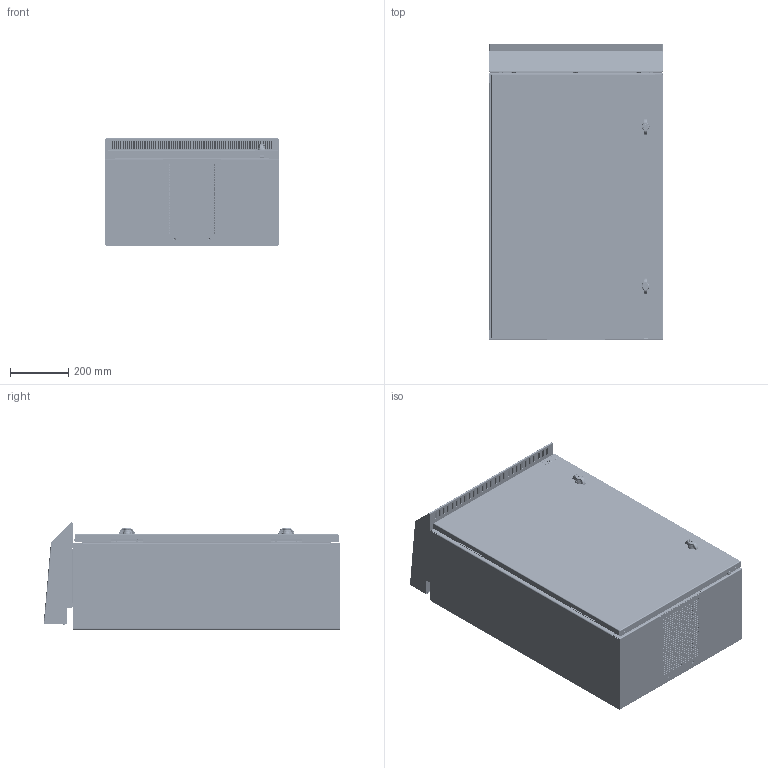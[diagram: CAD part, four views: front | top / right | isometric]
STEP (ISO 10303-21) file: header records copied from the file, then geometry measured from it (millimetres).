
FILE_DESCRIPTION (( 'STEP AP203' ), '1' );
FILE_NAME ('ptrs362412g3.STEP', '2011-10-04T12:28:51', ( 'Hoffman User' ), ( 'Hoffman Enclosures' ), 'SwSTEP 2.0', 'SolidWorks 2010', '' );
FILE_SCHEMA (( 'CONFIG_CONTROL_DESIGN' ));
Products named in the file (45): 60127199_60127199; 56906712_56906712; 87790199; ptrs362412g3; 89076547; 89076548; 89072079; 89072078; 89071699_Installed Config; 99401225; 89072087_SOLAR SHIELD 6060; 89072086_Shield Wrapper 6050; 89070564_PLATE, BACK; 600; 89072085; 89072083_VENT, BACK; 600; 89072084; 16111011_INSTALLED .144 THICKNESS; 89075890; 89072082_BBD; 89072081_Lrg Slot Grille; 87755671; 89076168; 89076170; 89076169; 89076171; 89060606_89060606; 89072123_87931339; 30189028; 89072452; 87559481; 89076592_89076592; 89076593_Compressed wdw gasket; 89076594_89076594; 60127101_60127101; 89076595; 60100041_60100041; 87931527_87931527; 87931368_SLEEVE; 89071927_FOR 16GA; 99407418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
Assembly tree (88 placements, depth 5):
  ptrs362412g3
    89072452
    89076592_89076592
      89071927_FOR 16GA  x2
      64138001  x2
      87928600
      99407418  x2
      89076593_Compressed wdw gasket
        60100041_60100041
          87931368_SLEEVE
          87931527_87931527
        89076595
        60127101_60127101  x2
        89076594_89076594
    16111011_INSTALLED .144 THICKNESS  x2
    30189028
    89072123_87931339  x2
    89072082_BBD
      87755671  x2
      89076168
        89076170
        89076169
        89076171
      89072081_Lrg Slot Grille
    60127214_601272214  x2
      56906712_56906712
      60127199_60127199
      60127135_Installed postion
      87790201_87790201
    89060606_89060606  x2
    89072085
      16111011_INSTALLED .144 THICKNESS  x8
      89072083_VENT, BACK; 600
      89075890  x8
      89072084
    87790199  x2
    87559481  x2
    89076547
      99401225  x12
      60100041_60100041
        87931368_SLEEVE
        87931527_87931527
      89071699_Installed Config  x6
      89076548
      89072079
      89072078
    89072087_SOLAR SHIELD 6060
      89070564_PLATE, BACK; 600
      89072086_Shield Wrapper 6050
Bounding box: 600 x 1022.35 x 369.39 mm (x, y, z)
Volume: 5819191.6 mm3; surface area: 6292107.9 mm2
Topology: 183 solids, 203 shells, 8087 faces, 20771 edges, 13216 vertices
Faces by surface type: plane 4063, cylinder 2634, bspline 833, cone 317, torus 228, sphere 12
Entity records: 234772 total; most frequent: CARTESIAN_POINT 90908, ORIENTED_EDGE 29536, DIRECTION 26864, EDGE_CURVE 14768, VERTEX_POINT 9504, AXIS2_PLACEMENT_3D 9105, VECTOR 8654, LINE 8654
